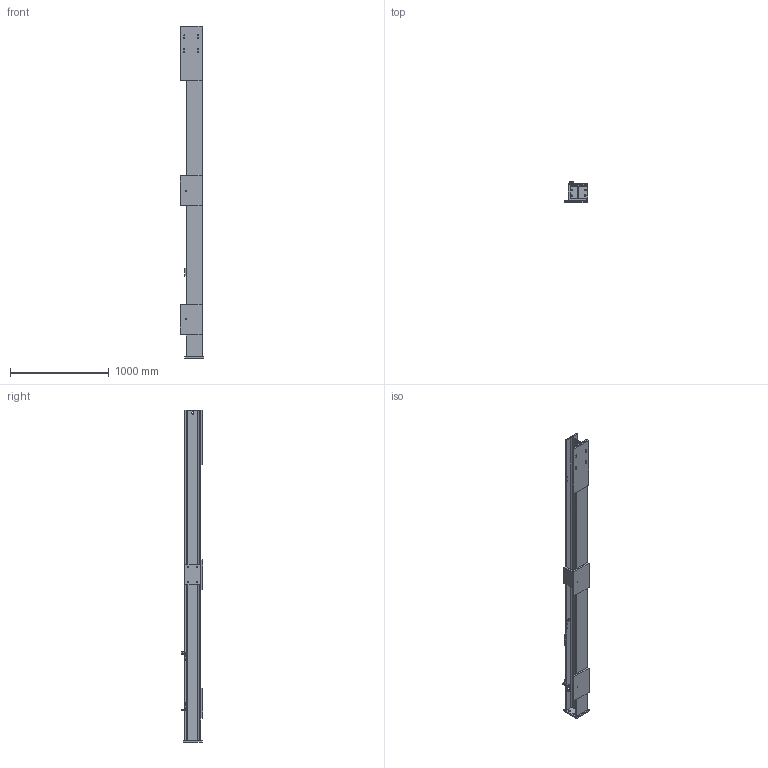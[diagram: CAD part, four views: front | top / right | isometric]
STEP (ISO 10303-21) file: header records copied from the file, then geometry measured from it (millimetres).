
FILE_DESCRIPTION(/* description */ ('Steher'),/* implementation_level */ '2;1');
FILE_NAME(/* name */ '00054764.stp',/* time_stamp */ '2023-08-08T14:19:46+02:00',/* author */ ('MD18'),/* organization */ (''),/* preprocessor_version */ 'ST-DEVELOPER v19.2',/* originating_system */ 'Autodesk Inventor 2023',/* authorisation */ '');
FILE_SCHEMA (('AUTOMOTIVE_DESIGN { 1 0 10303 214 3 1 1 }'));
Length unit declared in the file: millimetre
Products named in the file (10): 00054764; 00054764-S06; 00054764-S02; 00054764-S07; 00054764-S03; 00054764-S04; 00054764-S05; 00054764-S01; 00054764-S07_1; 00054764-S08
Assembly tree (10 placements, depth 2):
  00054764
    00054764-S06
    00054764-S02
    00054764-S07
    00054764-S03
    00054764-S04
    00054764-S05  x2
    00054764-S01
    00054764-S07_1
    00054764-S08
Bounding box: 235 x 215 x 3356 mm (x, y, z)
Volume: 23723356.6 mm3; surface area: 3836891 mm2
Topology: 10 solids, 10 shells, 131 faces, 332 edges, 220 vertices
Faces by surface type: plane 72, cylinder 52, cone 7
Full cylindrical faces by diameter (mm): 4.134 x4, 6.647 x4, 8.376 x9, 10.106 x18, 17.5 x4, 24 x1, 30 x1
Entity records: 4392 total; most frequent: DIRECTION 715, CARTESIAN_POINT 682, ORIENTED_EDGE 638, EDGE_CURVE 319, AXIS2_PLACEMENT_3D 254, VERTEX_POINT 212, EDGE_LOOP 211, LINE 207
